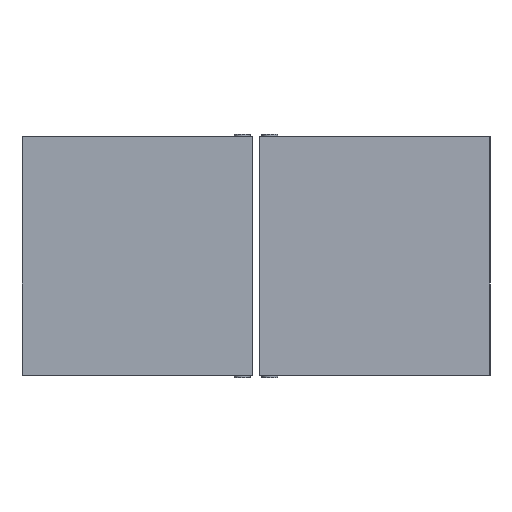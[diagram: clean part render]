
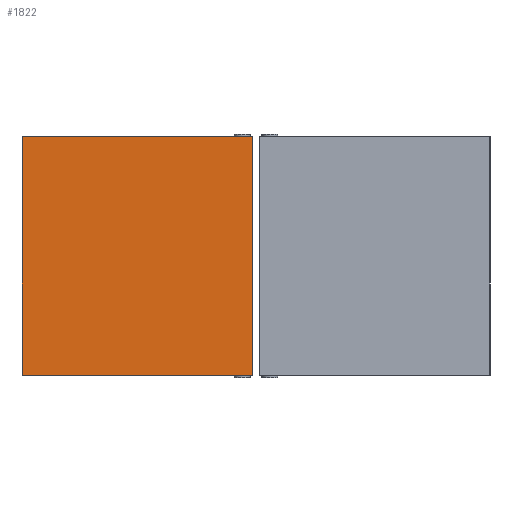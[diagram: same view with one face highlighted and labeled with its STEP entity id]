
A CAD part, top view. The second image highlights one B-rep face of the part: STEP entity #1822.
In plain terms, the highlighted planar face has unit normal (-0.002, 0, 1).
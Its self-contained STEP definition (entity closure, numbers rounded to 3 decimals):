
#44 = VECTOR ( 'NONE', #262, 1000. ) ;
#73 = EDGE_CURVE ( 'NONE', #1565, #214, #2024, .T. ) ;
#115 = FACE_OUTER_BOUND ( 'NONE', #1953, .T. ) ;
#214 = VERTEX_POINT ( 'NONE', #1693 ) ;
#262 = DIRECTION ( 'NONE',  ( -1., 0., 0. ) ) ;
#270 = DIRECTION ( 'NONE',  ( 0., 1., 0. ) ) ;
#276 = PLANE ( 'NONE',  #634 ) ;
#300 = DIRECTION ( 'NONE',  ( 0., 0., 1. ) ) ;
#386 = CARTESIAN_POINT ( 'NONE',  ( -290., -300., 0. ) ) ;
#445 = ORIENTED_EDGE ( 'NONE', *, *, #613, .T. ) ;
#585 = LINE ( 'NONE', #610, #1277 ) ;
#602 = EDGE_CURVE ( 'NONE', #2070, #1595, #1747, .T. ) ;
#603 = CARTESIAN_POINT ( 'NONE',  ( 0., 0., 0. ) ) ;
#610 = CARTESIAN_POINT ( 'NONE',  ( -289.5, 0., 0. ) ) ;
#613 = EDGE_CURVE ( 'NONE', #1595, #1565, #1149, .T. ) ;
#627 = EDGE_CURVE ( 'NONE', #214, #2070, #585, .T. ) ;
#634 = AXIS2_PLACEMENT_3D ( 'NONE', #603, #300, #955 ) ;
#642 = ORIENTED_EDGE ( 'NONE', *, *, #602, .T. ) ;
#796 = CARTESIAN_POINT ( 'NONE',  ( -290., 300., 0. ) ) ;
#869 = CARTESIAN_POINT ( 'NONE',  ( 289.5, 300., 0. ) ) ;
#951 = CARTESIAN_POINT ( 'NONE',  ( 289.5, 0., 0. ) ) ;
#955 = DIRECTION ( 'NONE',  ( 1., 0., 0. ) ) ;
#1144 = VECTOR ( 'NONE', #1276, 1000. ) ;
#1149 = LINE ( 'NONE', #951, #1351 ) ;
#1276 = DIRECTION ( 'NONE',  ( 1., 0., 0. ) ) ;
#1277 = VECTOR ( 'NONE', #1825, 1000. ) ;
#1351 = VECTOR ( 'NONE', #270, 1000. ) ;
#1565 = VERTEX_POINT ( 'NONE', #869 ) ;
#1595 = VERTEX_POINT ( 'NONE', #1898 ) ;
#1693 = CARTESIAN_POINT ( 'NONE',  ( -289.5, 300., 0. ) ) ;
#1707 = CARTESIAN_POINT ( 'NONE',  ( -289.5, -300., 0. ) ) ;
#1747 = LINE ( 'NONE', #386, #1144 ) ;
#1785 = ORIENTED_EDGE ( 'NONE', *, *, #73, .T. ) ;
#1822 = ADVANCED_FACE ( 'NONE', ( #115 ), #276, .T. ) ;
#1825 = DIRECTION ( 'NONE',  ( 0., -1., 0. ) ) ;
#1898 = CARTESIAN_POINT ( 'NONE',  ( 289.5, -300., 0. ) ) ;
#1953 = EDGE_LOOP ( 'NONE', ( #1785, #2039, #642, #445 ) ) ;
#2024 = LINE ( 'NONE', #796, #44 ) ;
#2039 = ORIENTED_EDGE ( 'NONE', *, *, #627, .T. ) ;
#2070 = VERTEX_POINT ( 'NONE', #1707 ) ;
